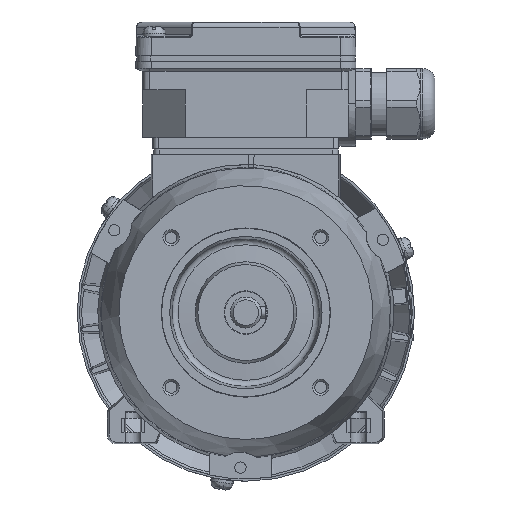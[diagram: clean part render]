
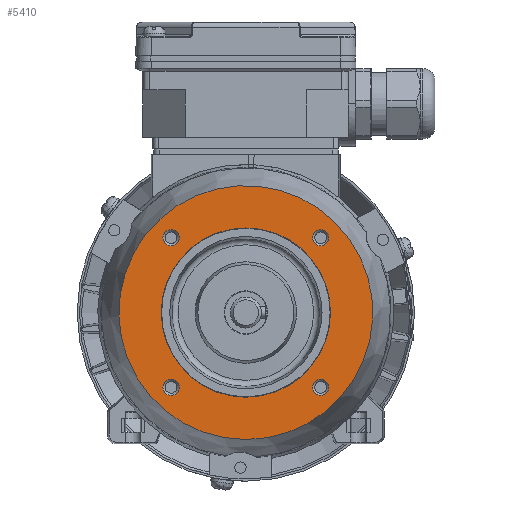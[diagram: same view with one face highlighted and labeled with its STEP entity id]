
A CAD part, left-side view. The second image highlights one B-rep face of the part: STEP entity #5410.
In plain terms, the highlighted planar face has unit normal (-1, 0, 0) as drawn and (0, -1, 0) by its records, which use the part's own axes.
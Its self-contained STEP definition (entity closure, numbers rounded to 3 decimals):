
#5410 = ADVANCED_FACE( '', ( #10826, #10827, #10828, #10829, #10830, #10831 ), #10832, .T. );
#10826 = FACE_BOUND( '', #24310, .T. );
#10827 = FACE_BOUND( '', #24311, .T. );
#10828 = FACE_BOUND( '', #24312, .T. );
#10829 = FACE_BOUND( '', #24313, .T. );
#10830 = FACE_OUTER_BOUND( '', #24314, .T. );
#10831 = FACE_BOUND( '', #24315, .T. );
#10832 = PLANE( '', #24316 );
#24310 = EDGE_LOOP( '', ( #39223 ) );
#24311 = EDGE_LOOP( '', ( #39224 ) );
#24312 = EDGE_LOOP( '', ( #39225 ) );
#24313 = EDGE_LOOP( '', ( #39226 ) );
#24314 = EDGE_LOOP( '', ( #39227 ) );
#24315 = EDGE_LOOP( '', ( #39228 ) );
#24316 = AXIS2_PLACEMENT_3D( '', #39229, #39230, #39231 );
#39223 = ORIENTED_EDGE( '', *, *, #41140, .T. );
#39224 = ORIENTED_EDGE( '', *, *, #42745, .T. );
#39225 = ORIENTED_EDGE( '', *, *, #42401, .T. );
#39226 = ORIENTED_EDGE( '', *, *, #40569, .T. );
#39227 = ORIENTED_EDGE( '', *, *, #42032, .T. );
#39228 = ORIENTED_EDGE( '', *, *, #43373, .F. );
#39229 = CARTESIAN_POINT( '', ( 0., 2.5, 30. ) );
#39230 = DIRECTION( '', ( 0., -1., 0. ) );
#39231 = DIRECTION( '', ( 0., 0., -1. ) );
#40569 = EDGE_CURVE( '', #46889, #46889, #46890, .F. );
#41140 = EDGE_CURVE( '', #47897, #47897, #47898, .F. );
#42032 = EDGE_CURVE( '', #49423, #49423, #49424, .T. );
#42401 = EDGE_CURVE( '', #50038, #50038, #50039, .F. );
#42745 = EDGE_CURVE( '', #50591, #50591, #50592, .F. );
#43373 = EDGE_CURVE( '', #51559, #51559, #51560, .T. );
#46889 = VERTEX_POINT( '', #55886 );
#46890 = CIRCLE( '', #55887, 2.867 );
#47897 = VERTEX_POINT( '', #57818 );
#47898 = CIRCLE( '', #57819, 2.867 );
#49423 = VERTEX_POINT( '', #61399 );
#49424 = CIRCLE( '', #61400, 45. );
#50038 = VERTEX_POINT( '', #62763 );
#50039 = CIRCLE( '', #62764, 2.867 );
#50591 = VERTEX_POINT( '', #63824 );
#50592 = CIRCLE( '', #63825, 2.867 );
#51559 = VERTEX_POINT( '', #66162 );
#51560 = CIRCLE( '', #66163, 30. );
#55886 = CARTESIAN_POINT( '', ( -26.517, 2.5, 23.65 ) );
#55887 = AXIS2_PLACEMENT_3D( '', #75103, #75104, #75105 );
#57818 = CARTESIAN_POINT( '', ( -26.517, 2.5, -29.384 ) );
#57819 = AXIS2_PLACEMENT_3D( '', #75787, #75788, #75789 );
#61399 = CARTESIAN_POINT( '', ( 0., 2.5, -45. ) );
#61400 = AXIS2_PLACEMENT_3D( '', #76856, #76857, #76858 );
#62763 = CARTESIAN_POINT( '', ( 26.517, 2.5, 23.65 ) );
#62764 = AXIS2_PLACEMENT_3D( '', #77242, #77243, #77244 );
#63824 = CARTESIAN_POINT( '', ( 26.517, 2.5, -29.384 ) );
#63825 = AXIS2_PLACEMENT_3D( '', #77647, #77648, #77649 );
#66162 = CARTESIAN_POINT( '', ( 0., 2.5, -30. ) );
#66163 = AXIS2_PLACEMENT_3D( '', #78299, #78300, #78301 );
#75103 = CARTESIAN_POINT( '', ( -26.517, 2.5, 26.517 ) );
#75104 = DIRECTION( '', ( 0., -1., 0. ) );
#75105 = DIRECTION( '', ( 0., 0., -1. ) );
#75787 = CARTESIAN_POINT( '', ( -26.517, 2.5, -26.517 ) );
#75788 = DIRECTION( '', ( 0., -1., 0. ) );
#75789 = DIRECTION( '', ( 0., 0., -1. ) );
#76856 = CARTESIAN_POINT( '', ( 0., 2.5, 0. ) );
#76857 = DIRECTION( '', ( 0., -1., 0. ) );
#76858 = DIRECTION( '', ( 0., 0., -1. ) );
#77242 = CARTESIAN_POINT( '', ( 26.517, 2.5, 26.517 ) );
#77243 = DIRECTION( '', ( 0., -1., 0. ) );
#77244 = DIRECTION( '', ( 0., 0., -1. ) );
#77647 = CARTESIAN_POINT( '', ( 26.517, 2.5, -26.517 ) );
#77648 = DIRECTION( '', ( 0., -1., 0. ) );
#77649 = DIRECTION( '', ( 0., 0., -1. ) );
#78299 = CARTESIAN_POINT( '', ( 0., 2.5, 0. ) );
#78300 = DIRECTION( '', ( 0., -1., 0. ) );
#78301 = DIRECTION( '', ( 0., 0., -1. ) );
